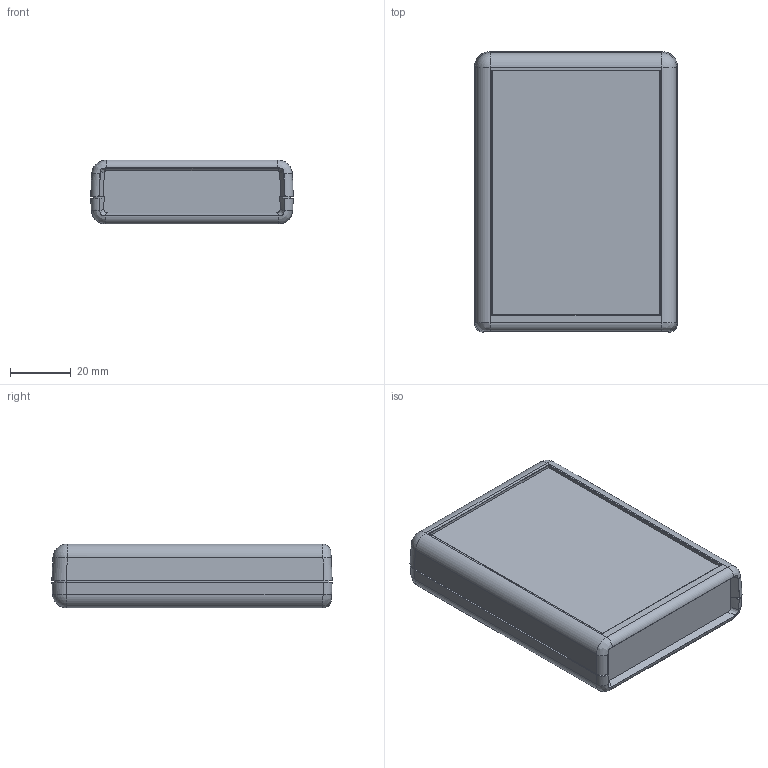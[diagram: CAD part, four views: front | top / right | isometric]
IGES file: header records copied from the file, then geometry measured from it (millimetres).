
Global section: file name: 1593S.iam; native system: Autodesk Inventor 2016; preprocessor: unknown; author: MBeerman; date: 20160425.153553; units: millimetre
Bounding box: 66.5 x 92 x 21 mm (x, y, z)
Volume: 48134.5 mm3; surface area: 46462.1 mm2
Topology: 9 solids, 9 shells, 729 faces, 1939 edges, 1281 vertices
Faces by surface type: plane 408, revolution 115, bspline 90, cylinder 78, cone 26, sphere 12
Full cylindrical faces by diameter (mm): 2.845 x4
